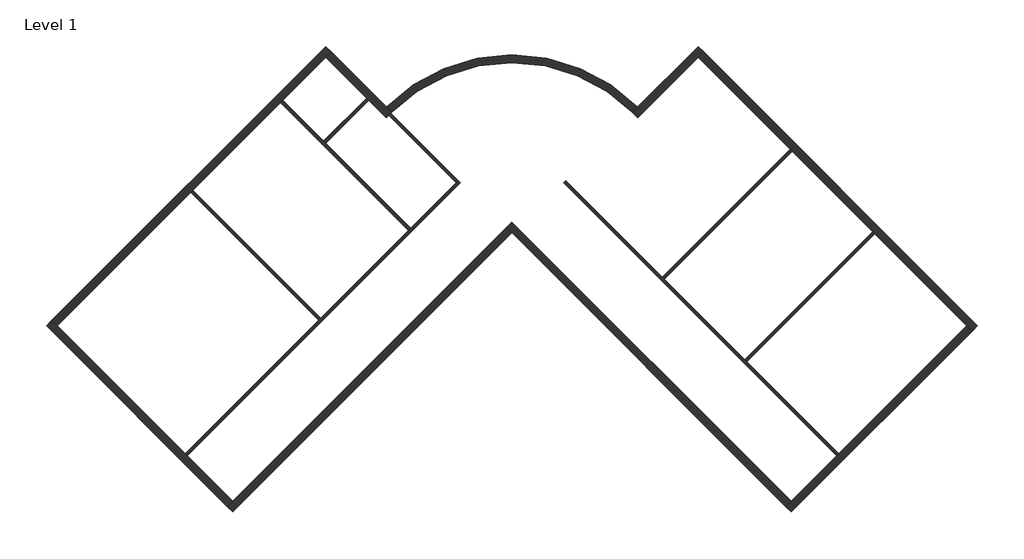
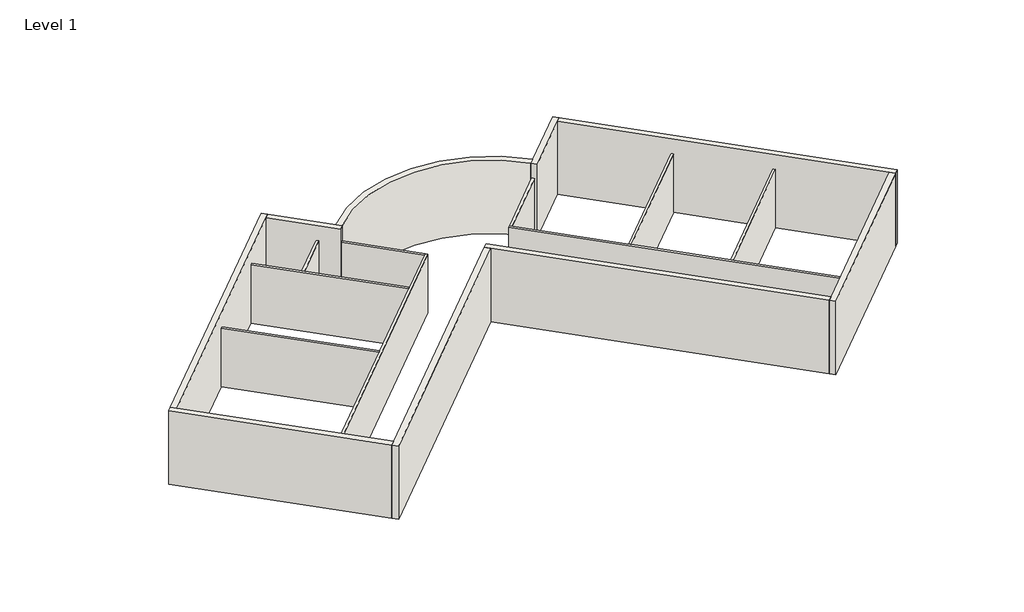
# One storey: 18 walls.
"""IFC4 building model written with IfcOpenShell, lengths in millimetres."""

import ifcopenshell
import ifcopenshell.guid

model = None  # the IFC model being written
_history = None  # IfcOwnerHistory: only IFC2X3 demands one
_inside = {}  # id of a spatial element -> (the spatial element, [elements in it])
_under = {}  # id of a project, library or spatial element -> (it, [spatial elements below it])
_declared = {}  # id of a project -> (the project, [libraries it declares])
_typed = {}  # id of a type object -> (the type object, [elements of that type])
_made_of = {}  # id of a material, layer set ... -> (it, [elements and type objects made of it])


def new_model(schema):
    """Start an empty IFC model of exactly this schema.

    Asked for "IFC4X3", IfcOpenShell would pick the latest addendum, in which some entities
    have other attributes; the version numbers below select the first issue.
    IFC2X3 requires an IfcOwnerHistory on every rooted entity: one is made here for all.
    """
    global model, _history
    if schema == "IFC4X3":
        model = ifcopenshell.file(schema_version=(4, 3, 0, 0))
    else:
        model = ifcopenshell.file(schema=schema)
    _inside.clear()
    _under.clear()
    _declared.clear()
    _typed.clear()
    _made_of.clear()
    _history = None
    if model.schema == "IFC2X3":
        org = make("IfcOrganization", Name="unknown")
        user = make(
            "IfcPersonAndOrganization",
            ThePerson=make("IfcPerson", FamilyName="unknown"),
            TheOrganization=org,
        )
        app = make(
            "IfcApplication",
            ApplicationDeveloper=org,
            Version="unknown",
            ApplicationFullName="unknown",
            ApplicationIdentifier="unknown",
        )
        _history = make(
            "IfcOwnerHistory",
            OwningUser=user,
            OwningApplication=app,
            ChangeAction="ADDED",
            CreationDate=0,
        )
    return model


def make(cls, **values):
    """One entity of the class cls with the attributes given. An attribute that is None is left unset."""
    return model.create_entity(
        cls, **{name: value for name, value in values.items() if value is not None}
    )


def rooted(cls, **values):
    """An entity with a GlobalId (a new one), such as an element, a storey or a relation."""
    return make(cls, GlobalId=ifcopenshell.guid.new(), OwnerHistory=_history, **values)


def si_unit(unit_type, name, prefix=None):
    """IfcSIUnit, for example si_unit("LENGTHUNIT", "METRE", prefix="MILLI")."""
    return make("IfcSIUnit", UnitType=unit_type, Prefix=prefix, Name=name)


def assignment(units):
    """IfcUnitAssignment: the units of a project."""
    return None if units is None else make("IfcUnitAssignment", Units=units)


def point(xyz):
    """IfcCartesianPoint."""
    return None if xyz is None else make("IfcCartesianPoint", Coordinates=xyz)


def direction(xyz):
    """IfcDirection."""
    return None if xyz is None else make("IfcDirection", DirectionRatios=xyz)


def frame(location, z_axis=None, x_axis=None):
    """IfcAxis2Placement3D, a coordinate frame: its origin and axes. An axis left out is left unset."""
    return make(
        "IfcAxis2Placement3D",
        Location=point(location),
        Axis=direction(z_axis),
        RefDirection=direction(x_axis),
    )


def frame_2d(location, x_axis=None):
    """IfcAxis2Placement2D, a coordinate frame in the plane: its origin and x axis."""
    return make(
        "IfcAxis2Placement2D", Location=point(location), RefDirection=direction(x_axis)
    )


def origin():
    """The frame at (0, 0, 0) with its axes left unset."""
    return frame((0.0, 0.0, 0.0))


def origin_with_axes():
    """The frame at (0, 0, 0) with the z axis (0, 0, 1) and the x axis (1, 0, 0) written out."""
    return frame((0.0, 0.0, 0.0), z_axis=(0.0, 0.0, 1.0), x_axis=(1.0, 0.0, 0.0))


def place(relative_to, where):
    """IfcLocalPlacement: puts the frame where relative to a parent placement (None: the world)."""
    return make(
        "IfcLocalPlacement", PlacementRelTo=relative_to, RelativePlacement=where
    )


def context(
    kind, dimensions, precision=None, world=None, true_north=None, identifier=None
):
    """IfcGeometricRepresentationContext, for example the 3D "Model" context."""
    return make(
        "IfcGeometricRepresentationContext",
        ContextIdentifier=identifier,
        ContextType=kind,
        CoordinateSpaceDimension=dimensions,
        Precision=precision,
        WorldCoordinateSystem=world,
        TrueNorth=true_north,
    )


def project(units=None, contexts=None):
    """IfcProject with its units and contexts."""
    return rooted(
        "IfcProject",
        Name="project",
        RepresentationContexts=contexts,
        UnitsInContext=assignment(units),
    )


def spatial(cls, under=None, at=None, **own):
    """A site, building, storey or space (cls), placed at a placement, below another one or the project."""
    s = rooted(cls, ObjectPlacement=at, **own)
    if under is not None:
        _under.setdefault(under.id(), (under, []))[1].append(s)
    return s


def polyline(points):
    """IfcPolyline through the points."""
    return make("IfcPolyline", Points=[point(p) for p in points])


def circle_curve(where, radius):
    """IfcCircle in the frame where."""
    return make("IfcCircle", Position=where, Radius=radius)


def trimmed(basis, trim1, trim2, sense, master):
    """IfcTrimmedCurve: the piece of a basis curve between two trims."""
    return make(
        "IfcTrimmedCurve",
        BasisCurve=basis,
        Trim1=trim1,
        Trim2=trim2,
        SenseAgreement=sense,
        MasterRepresentation=master,
    )


def segment(curve, same_sense, transition):
    """IfcCompositeCurveSegment."""
    return make(
        "IfcCompositeCurveSegment",
        Transition=transition,
        SameSense=same_sense,
        ParentCurve=curve,
    )


def composite_curve(segments, self_intersect=None):
    """IfcCompositeCurve: segments joined end to end."""
    return make("IfcCompositeCurve", Segments=segments, SelfIntersect=self_intersect)


def outline(outer, holes=None, kind="AREA"):
    """IfcArbitraryClosedProfileDef: a profile drawn as a closed curve; with holes, ...WithVoids."""
    if holes is None:
        return make("IfcArbitraryClosedProfileDef", ProfileType=kind, OuterCurve=outer)
    return make(
        "IfcArbitraryProfileDefWithVoids",
        ProfileType=kind,
        OuterCurve=outer,
        InnerCurves=holes,
    )


def extrude(swept, where, along, depth):
    """IfcExtrudedAreaSolid: the profile swept, set in the frame where, extruded along a direction by depth."""
    return make(
        "IfcExtrudedAreaSolid",
        SweptArea=swept,
        Position=where,
        ExtrudedDirection=direction(along),
        Depth=depth,
    )


def faces_of(points, faces, orient=None, outer=None):
    """IfcFace entities. A face is a list of loops; a loop is a list of indices into points, from 0.

    orient and outer hold one flag for each loop. By default every Orientation is true, the
    first loop of a face is its IfcFaceOuterBound and the others are IfcFaceBound.
    """
    made = []
    for i, loops in enumerate(faces):
        bounds = []
        for j, loop in enumerate(loops):
            is_outer = j == 0 if outer is None else outer[i][j]
            bounds.append(
                make(
                    "IfcFaceOuterBound" if is_outer else "IfcFaceBound",
                    Bound=make("IfcPolyLoop", Polygon=[points[k] for k in loop]),
                    Orientation=True if orient is None else orient[i][j],
                )
            )
        made.append(make("IfcFace", Bounds=bounds))
    return made


def faceted_brep(points, faces, orient=None, outer=None, voids=None):
    """IfcFacetedBrep: a solid bounded by flat faces; with voids (closed shells), ...WithVoids."""
    shared = [point(p) for p in points]
    hull = make("IfcClosedShell", CfsFaces=faces_of(shared, faces, orient, outer))
    if voids is None:
        return make("IfcFacetedBrep", Outer=hull)
    return make(
        "IfcFacetedBrepWithVoids",
        Outer=hull,
        Voids=[
            make(cls, CfsFaces=faces_of(shared, fs, o, b)) for cls, fs, o, b in voids
        ],
    )


def shape(context_of_items, identifier, shape_type, items):
    """IfcShapeRepresentation: the items that make up one representation, for example the "Body"."""
    return make(
        "IfcShapeRepresentation",
        ContextOfItems=context_of_items,
        RepresentationIdentifier=identifier,
        RepresentationType=shape_type,
        Items=items,
    )


def made_of(thing, what):
    """Note that an element or type object is made of a material, layer set ...; save() writes the relation."""
    if what is not None:
        _made_of.setdefault(what.id(), (what, []))[1].append(thing)
    return thing


def element(
    cls,
    number,
    at=None,
    inside=None,
    cuts=None,
    type_object=None,
    material=None,
    context=None,
    identifier="Body",
    shape_type=None,
    held_by="IfcProductDefinitionShape",
    body=None,
    shapes=None,
    **own,
):
    """One element of the class cls, such as IfcWall. Its Tag is "e" and its number.

    at: its placement. inside: the storey or other place that contains it. cuts: it is an
    opening in that element (IfcRelVoidsElement). A single representation is given by context,
    identifier, shape_type and body (its items); several are given by shapes. held_by: the class
    of the entity that holds the representations. save() writes the other relations.
    """
    e = rooted(cls, Tag="e%d" % number, ObjectPlacement=at, **own)
    if body is not None:
        shapes = [shape(context, identifier, shape_type, body)]
    if shapes is not None:
        e.Representation = make(held_by, Representations=shapes)
    if inside is not None:
        _inside.setdefault(inside.id(), (inside, []))[1].append(e)
    if cuts is not None:
        rooted(
            "IfcRelVoidsElement", RelatingBuildingElement=cuts, RelatedOpeningElement=e
        )
    if type_object is not None:
        _typed.setdefault(type_object.id(), (type_object, []))[1].append(e)
    return made_of(e, material)


def aggregate(whole, parts):
    """IfcRelAggregates: a whole, such as a stair, and the parts it consists of."""
    return rooted("IfcRelAggregates", RelatingObject=whole, RelatedObjects=parts)


def save(model, path):
    """Write the relations noted so far, then the file.

    IfcRelAggregates (storeys below a building ...), IfcRelContainedInSpatialStructure (elements
    in a storey), IfcRelDefinesByType, IfcRelAssociatesMaterial and IfcRelDeclares: one each for
    every whole, place, type object, material and project.
    """
    for whole, parts in _under.values():
        aggregate(whole, parts)
    for where, things in _inside.values():
        rooted(
            "IfcRelContainedInSpatialStructure",
            RelatedElements=things,
            RelatingStructure=where,
        )
    for kind, things in _typed.values():
        rooted("IfcRelDefinesByType", RelatedObjects=things, RelatingType=kind)
    for what, things in _made_of.values():
        rooted("IfcRelAssociatesMaterial", RelatedObjects=things, RelatingMaterial=what)
    for by, libraries in _declared.values():
        rooted("IfcRelDeclares", RelatingContext=by, RelatedDefinitions=libraries)
    model.write(path)


def plane_surface(at):
    """IfcPlane: the flat surface through the origin of the frame at, square to its z axis."""
    return make("IfcPlane", Position=at)


def revolved_surface(curve, axis_point, axis_direction):
    """IfcSurfaceOfRevolution: the curve turned about the line through axis_point along axis_direction."""
    return make(
        "IfcSurfaceOfRevolution",
        SweptCurve=make("IfcArbitraryOpenProfileDef", ProfileType="CURVE", Curve=curve),
        AxisPosition=make("IfcAxis1Placement", Location=point(axis_point), Axis=direction(axis_direction)),
    )


def advanced_brep(points, edges, surfaces, faces):
    """IfcAdvancedBrep: a solid bounded by faces that lie on surfaces and meet in shared edges.

    An edge is (start, end): straight between two places in points (the first is 0);
    or (start, end, curve); or (start, end, curve, False) where it runs against its curve.
    A face is (place in surfaces, loops), or (place, loops, False) where it looks against
    its surface's normal. A loop lists edges by number (the first is 1), with a minus sign
    where the edge is run from its end to its start. The first loop is the outer one.
    """
    corners = [point(p) for p in points]
    vertices = [make("IfcVertexPoint", VertexGeometry=c) for c in corners]
    made = []
    for start, end, *more in edges:
        made.append(
            make(
                "IfcEdgeCurve",
                EdgeStart=vertices[start],
                EdgeEnd=vertices[end],
                EdgeGeometry=more[0] if more else make("IfcPolyline", Points=[corners[start], corners[end]]),
                SameSense=more[1] if len(more) > 1 else True,
            )
        )
    hull = []
    for where, loops, *sense in faces:
        bounds = []
        for j, loop in enumerate(loops):
            ring = [make("IfcOrientedEdge", EdgeElement=made[abs(k) - 1], Orientation=k > 0) for k in loop]
            bounds.append(
                make(
                    "IfcFaceOuterBound" if j == 0 else "IfcFaceBound",
                    Bound=make("IfcEdgeLoop", EdgeList=ring),
                    Orientation=True,
                )
            )
        hull.append(make("IfcAdvancedFace", Bounds=bounds, FaceSurface=surfaces[where], SameSense=sense[0] if sense else True))
    return make("IfcAdvancedBrep", Outer=make("IfcClosedShell", CfsFaces=hull))


model = new_model("IFC4")

# Units and contexts
model_context = context("Model", 3, world=origin())
ifc_project = project(units=[si_unit("LENGTHUNIT", "METRE", prefix="MILLI")], contexts=[model_context])

# Site, building, storey
site = spatial("IfcSite", under=ifc_project)
building = spatial("IfcBuilding", under=site)
storey = spatial("IfcBuildingStorey", under=building, Name="Level 1", Elevation=0.0)

# Walls
placement = place(None, origin())
element("IfcWall", 1, ObjectType="Exterior - Brick on Mtl. Stud", at=placement, inside=storey, context=model_context, shape_type="AdvancedBrep", body=[
    advanced_brep(
    [(4212.7441701, 7313.6674352, 4572.0), (4212.7441701, 7313.6674352, 0.0), (7019.8001803, 10120.7234455, 0.0), (7267.2875537, 10368.2108189, 0.0), (7267.2875537, 10368.2108189, 4572.0), (7019.8001803, 10120.7234455, 4572.0), (3970.7557398, 7566.6537518, 0.0), (3970.7557398, 7566.6537518, 4572.0), (4218.2431133, 7814.1411252, 4572.0), (7019.8001803, 10615.6981923, 4572.0), (7019.8001803, 10615.6981923, 0.0), (4218.2431133, 7814.1411252, 0.0), (4109.8638796, 7423.9826013, 0.0), (4013.5506313, 7523.5275434, 0.0)],
    [
        (0, 1),
        (1, 2),
        (2, 3),
        (3, 4),
        (4, 5),
        (5, 0),
        (6, 7),
        (7, 8),
        (8, 9),
        (9, 10),
        (10, 11),
        (11, 6),
        (1, 12, circle_curve(frame((-1601.2456959, 1994.6523161, 0.0), z_axis=(0.0, 0.0, 1.0), x_axis=(1.0, 0.0, 0.0)), 7880.0)),
        (12, 13, circle_curve(frame((-1601.2456959, 1994.6523161, 0.0), z_axis=(0.0, 0.0, 1.0), x_axis=(1.0, 0.0, 0.0)), 7879.9999955)),
        (13, 6, circle_curve(frame((-1601.2456959, 1994.6523161, 0.0), z_axis=(0.0, 0.0, 1.0), x_axis=(1.0, 0.0, 0.0)), 7879.9999413)),
        (10, 3),
        (4, 9),
        (7, 0, circle_curve(frame((-1601.2456959, 1994.6523161, 4572.0), z_axis=(0.0, 0.0, -1.0), x_axis=(1.0, 0.0, 0.0)), 7880.0)),
    ],
    [
        plane_surface(frame((4250.0629184, 7350.9861836, 0.0), z_axis=(0.7071067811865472, -0.7071067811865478, 0.0), x_axis=(0.7071067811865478, 0.7071067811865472, 0.0))),
        plane_surface(frame((4002.575545, 7598.473557, 0.0), z_axis=(-0.7071067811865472, 0.7071067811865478, 0.0), x_axis=(-0.7071067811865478, -0.7071067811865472, 0.0))),
        plane_surface(frame((4340.6424361, 7441.5657013, 0.0), z_axis=(0.0, 0.0, -1.0), x_axis=(-0.7071067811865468, 0.7071067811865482, 0.0))),
        plane_surface(frame((7143.543867, 10244.4671322, 4572.0), z_axis=(0.0, 0.0, 1.0), x_axis=(-0.707106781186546, 0.7071067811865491, 0.0))),
        plane_surface(frame((7019.8001803, 10615.6981923, 0.0), z_axis=(0.7071067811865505, 0.7071067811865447, 0.0), x_axis=(-0.7071067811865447, 0.7071067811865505, 0.0))),
        revolved_surface(polyline([(6278.7543041, 1994.6523161, 0.0), (6278.7543041, 1994.6523161, 4572.0)]), (-1601.2456959, 1994.6523161, 0.0), (0.0, 0.0, -1.0)),
    ],
    [
        (0, [[1, 2, 3, 4, 5, 6]]),
        (1, [[7, 8, 9, 10, 11, 12]]),
        (2, [[-3, -2, 13, 14, 15, -12, -11, 16]]),
        (3, [[-6, -5, 17, -9, -8, 18]]),
        (4, [[-4, -16, -10, -17]]),
        (5, [[-18, -7, -15, -14, -13, -1]]),
    ],
),
])
element("IfcWall", 2, ObjectType="Exterior - Brick on Mtl. Stud", at=placement, inside=storey, context=model_context, shape_type="Brep", body=[
    faceted_brep([(7019.8001803, 10120.7234455, 0.0), (11281.3559738, 5859.167652, 0.0), (11379.290263, 5761.2333628, 0.0), (15096.9041651, 2043.6194607, 0.0), (15194.8384543, 1945.6851715, 0.0), (19456.3942478, -2315.870622, 0.0), (19703.8816212, -2563.3579955, 0.0), (19703.8816212, -2563.3579955, 4572.0), (19456.3942478, -2315.870622, 4572.0), (7019.8001803, 10120.7234455, 4572.0), (7267.2875537, 10368.2108189, 0.0), (7267.2875537, 10368.2108189, 4572.0), (19951.3689947, -2315.870622, 4572.0), (19951.3689947, -2315.870622, 0.0)], [[[0, 1, 2, 3, 4, 5, 6, 7, 8, 9]], [[10, 11, 12, 13]], [[6, 5, 4, 3, 2, 1, 0, 10, 13]], [[9, 8, 7, 12, 11]], [[0, 9, 11, 10]], [[7, 6, 13, 12]]]),
])
element("IfcWall", 3, ObjectType="Exterior - Brick on Mtl. Stud", at=placement, inside=storey, context=model_context, shape_type="Brep", body=[
    faceted_brep([(19456.3942478, -2315.870622, 0.0), (13534.5517321, -8237.7131378, 0.0), (13436.6174429, -8335.647427, 0.0), (11330.3231184, -10441.9417514, 0.0), (11082.835745, -10689.4291248, 0.0), (11082.835745, -10689.4291248, 4572.0), (11330.3231184, -10441.9417514, 4572.0), (19456.3942478, -2315.870622, 4572.0), (19703.8816212, -2563.3579955, 0.0), (19703.8816212, -2563.3579955, 4572.0), (11330.3231184, -10936.9164983, 4572.0), (11330.3231184, -10936.9164983, 0.0)], [[[0, 1, 2, 3, 4, 5, 6, 7]], [[8, 9, 10, 11]], [[4, 3, 2, 1, 0, 8, 11]], [[7, 6, 5, 10, 9]], [[0, 7, 9, 8]], [[5, 4, 11, 10]]]),
])
element("IfcWall", 4, ObjectType="Exterior - Brick on Mtl. Stud", at=placement, inside=storey, context=model_context, shape_type="Brep", body=[
    faceted_brep([(11330.3231184, -10441.9417514, 0.0), (-1601.2456959, 2489.6270629, 0.0), (-1601.2456959, 2489.6270629, 4572.0), (11330.3231184, -10441.9417514, 4572.0), (11082.835745, -10689.4291248, 0.0), (11082.835745, -10689.4291248, 4572.0), (-1601.2456959, 1994.6523161, 4572.0), (-1848.7330693, 2242.1396895, 4572.0), (-1848.7330693, 2242.1396895, 0.0), (-1601.2456959, 1994.6523161, 0.0)], [[[0, 1, 2, 3]], [[4, 5, 6, 7, 8, 9]], [[1, 0, 4, 9, 8]], [[3, 2, 7, 6, 5]], [[0, 3, 5, 4]], [[2, 1, 8, 7]]]),
])
element("IfcWall", 5, ObjectType="Exterior - Brick on Mtl. Stud", at=placement, inside=storey, context=model_context, shape_type="Brep", body=[
    faceted_brep([(-1848.7330693, 2242.1396895, 0.0), (-14532.8145102, -10441.9417514, 0.0), (-14780.3018837, -10689.4291248, 0.0), (-14780.3018837, -10689.4291248, 4572.0), (-14532.8145102, -10441.9417514, 4572.0), (-1848.7330693, 2242.1396895, 4572.0), (-1601.2456959, 1994.6523161, 0.0), (-1601.2456959, 1994.6523161, 4572.0), (-14532.8145102, -10936.9164983, 4572.0), (-14532.8145102, -10936.9164983, 0.0)], [[[0, 1, 2, 3, 4, 5]], [[6, 7, 8, 9]], [[2, 1, 0, 6, 9]], [[5, 4, 3, 8, 7]], [[0, 5, 7, 6]], [[3, 2, 9, 8]]]),
])
element("IfcWall", 6, ObjectType="Exterior - Brick on Mtl. Stud", at=placement, inside=storey, context=model_context, shape_type="Brep", body=[
    faceted_brep([(-14532.8145102, -10441.9417514, 0.0), (-16639.1088347, -8335.647427, 0.0), (-16737.0431239, -8237.7131378, 0.0), (-22658.8856396, -2315.870622, 0.0), (-22906.3730131, -2068.3832486, 0.0), (-22906.3730131, -2068.3832486, 4572.0), (-22658.8856396, -2315.870622, 4572.0), (-14532.8145102, -10441.9417514, 4572.0), (-14780.3018837, -10689.4291248, 0.0), (-14780.3018837, -10689.4291248, 4572.0), (-23153.8603865, -2315.870622, 4572.0), (-23153.8603865, -2315.870622, 0.0)], [[[0, 1, 2, 3, 4, 5, 6, 7]], [[8, 9, 10, 11]], [[4, 3, 2, 1, 0, 8, 11]], [[7, 6, 5, 10, 9]], [[0, 7, 9, 8]], [[5, 4, 11, 10]]]),
])
element("IfcWall", 7, ObjectType="Exterior - Brick on Mtl. Stud", at=placement, inside=storey, context=model_context, shape_type="Brep", body=[
    faceted_brep([(-22658.8856396, -2315.870622, 0.0), (-16473.6458479, 3869.3691697, 0.0), (-16375.7115587, 3967.3034589, 0.0), (-12319.9238385, 8023.0911791, 0.0), (-12221.9895493, 8121.0254683, 0.0), (-10222.2915721, 10120.7234455, 0.0), (-9974.8041987, 10368.2108189, 0.0), (-9974.8041987, 10368.2108189, 4572.0), (-10222.2915721, 10120.7234455, 4572.0), (-22658.8856396, -2315.870622, 4572.0), (-22906.3730131, -2068.3832486, 0.0), (-22906.3730131, -2068.3832486, 4572.0), (-10222.2915721, 10615.6981923, 4572.0), (-10222.2915721, 10615.6981923, 0.0)], [[[0, 1, 2, 3, 4, 5, 6, 7, 8, 9]], [[10, 11, 12, 13]], [[6, 5, 4, 3, 2, 1, 0, 10, 13]], [[9, 8, 7, 12, 11]], [[0, 9, 11, 10]], [[7, 6, 13, 12]]]),
])
element("IfcWall", 8, ObjectType="Exterior - Brick on Mtl. Stud", at=placement, inside=storey, context=model_context, shape_type="AdvancedBrep", body=[
    advanced_brep(
    [(-10222.2915721, 10120.7234455, 0.0), (-8331.6648159, 8230.0966893, 0.0), (-8233.7305267, 8132.1624001, 0.0), (-7415.2355619, 7313.6674352, 0.0), (-7415.2355619, 7313.6674352, 4572.0), (-10222.2915721, 10120.7234455, 4572.0), (-9974.8041987, 10368.2108189, 0.0), (-9974.8041987, 10368.2108189, 4572.0), (-7420.7345051, 7814.1411252, 4572.0), (-7173.2471317, 7566.6537518, 4572.0), (-7173.2471317, 7566.6537518, 0.0), (-7420.7345051, 7814.1411252, 0.0), (-7216.0420231, 7523.5275434, 0.0), (-7312.3552714, 7423.9826013, 0.0)],
    [
        (0, 1),
        (1, 2),
        (2, 3),
        (3, 4),
        (4, 5),
        (5, 0),
        (6, 7),
        (7, 8),
        (8, 9),
        (9, 10),
        (10, 11),
        (11, 6),
        (0, 6),
        (10, 12, circle_curve(frame((-1601.2456959, 1994.6523161, 0.0), z_axis=(0.0, 0.0, 1.0), x_axis=(1.0, 0.0, 0.0)), 7880.0)),
        (12, 13, circle_curve(frame((-1601.2456959, 1994.6523161, 0.0), z_axis=(0.0, 0.0, 1.0), x_axis=(1.0, 0.0, 0.0)), 7879.9999413)),
        (13, 3, circle_curve(frame((-1601.2456959, 1994.6523161, 0.0), z_axis=(0.0, 0.0, 1.0), x_axis=(1.0, 0.0, 0.0)), 7879.9999955)),
        (4, 9, circle_curve(frame((-1601.2456959, 1994.6523161, 4572.0), z_axis=(0.0, 0.0, -1.0), x_axis=(1.0, 0.0, 0.0)), 7880.0)),
        (7, 5),
    ],
    [
        plane_surface(frame((-10469.7789456, 10368.2108189, 0.0), z_axis=(-0.7071067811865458, -0.7071067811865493, 0.0), x_axis=(0.7071067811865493, -0.7071067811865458, 0.0))),
        plane_surface(frame((-10222.2915721, 10615.6981923, 0.0), z_axis=(0.7071067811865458, 0.7071067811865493, 0.0), x_axis=(-0.7071067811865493, 0.7071067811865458, 0.0))),
        plane_surface(frame((-10346.0352588, 10244.4671322, 0.0), z_axis=(0.0, 0.0, -1.0000000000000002), x_axis=(0.7071067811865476, 0.7071067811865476, 0.0))),
        plane_surface(frame((-7543.133828, 7441.5657013, 4572.0), z_axis=(0.0, 0.0, 1.0), x_axis=(0.707106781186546, 0.707106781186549, 0.0))),
        plane_surface(frame((-22906.3730131, -2563.3579955, 0.0), z_axis=(-0.7071067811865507, 0.7071067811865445, 0.0), x_axis=(0.7071067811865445, 0.7071067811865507, 0.0))),
        revolved_surface(polyline([(6278.7543041, 1994.6523161, 0.0), (6278.7543041, 1994.6523161, 4572.0)]), (-1601.2456959, 1994.6523161, 0.0), (0.0, 0.0, -1.0)),
    ],
    [
        (0, [[1, 2, 3, 4, 5, 6]]),
        (1, [[7, 8, 9, 10, 11, 12]]),
        (2, [[-3, -2, -1, 13, -12, -11, 14, 15, 16]]),
        (3, [[-5, 17, -9, -8, 18]]),
        (4, [[-6, -18, -7, -13]]),
        (5, [[-16, -15, -14, -10, -17, -4]]),
    ],
),
])
element("IfcWall", 9, ObjectType="Exterior - Brick on Mtl. Stud", at=placement, inside=storey, context=model_context, shape_type="SweptSolid", body=[
    extrude(outline(composite_curve([segment(polyline([(4218.2431133, 7814.1411252), (3970.7557398, 7566.6537518)]), True, "CONTINUOUS"), segment(trimmed(circle_curve(frame_2d((-1601.2456959, 1994.6523161)), 7880.0), [point((3970.7557398, 7566.6537518))], [point((-7173.2471317, 7566.6537518))], True, "CARTESIAN"), True, "CONTINUOUS"), segment(polyline([(-7173.2471317, 7566.6537518), (-7420.7345051, 7814.1411252)]), True, "CONTINUOUS"), segment(trimmed(circle_curve(frame_2d((-1601.2456959, 1994.6523161)), 8230.0), [point((-7420.7345051, 7814.1411252))], [point((4218.2431133, 7814.1411252))], False, "CARTESIAN"), True, "CONTINUOUS")], self_intersect=False)), origin_with_axes(), (0.0, 0.0, 1.0), 4572.0),
])
element("IfcWall", 10, ObjectType="Interior - 138mm Partition (1-hr)", at=placement, inside=storey, context=model_context, shape_type="Brep", body=[
    faceted_brep([(-16639.1088347, -8335.647427, 0.0), (-3997.9841307, 4305.477277, 0.0), (-3997.9841307, 4305.477277, 3658.0), (-16639.1088347, -8335.647427, 3658.0), (-16737.0431239, -8237.7131378, 0.0), (-16737.0431239, -8237.7131378, 3658.0), (-10551.8033322, -2052.473346, 3658.0), (-10453.869043, -1954.5390569, 3658.0), (-6398.0813228, 2101.2486633, 3658.0), (-6300.1470336, 2199.1829525, 3658.0), (-4193.8527091, 4305.477277, 3658.0), (-4095.9184199, 4403.4115662, 3658.0), (-4095.9184199, 4403.4115662, 0.0), (-4193.8527091, 4305.477277, 0.0), (-6300.1470336, 2199.1829525, 0.0), (-6398.0813228, 2101.2486633, 0.0), (-10453.869043, -1954.5390569, 0.0), (-10551.8033322, -2052.473346, 0.0)], [[[0, 1, 2, 3]], [[4, 5, 6, 7, 8, 9, 10, 11, 12, 13, 14, 15, 16, 17]], [[1, 0, 4, 17, 16, 15, 14, 13, 12]], [[3, 2, 11, 10, 9, 8, 7, 6, 5]], [[0, 3, 5, 4]], [[2, 1, 12, 11]]]),
])
element("IfcWall", 11, ObjectType="Interior - 138mm Partition (1-hr)", at=placement, inside=storey, context=model_context, shape_type="SweptSolid", body=[
    extrude(outline(composite_curve([segment(polyline([(-7216.038281, 7523.5314273), (-4095.9184199, 4403.4115662), (-4193.8527091, 4305.477277), (-7312.3566207, 7423.9811885)]), True, "CONTINUOUS"), segment(trimmed(circle_curve(frame_2d((-1601.2456959, 1994.6523161)), 7880.0), [point((-7312.3566207, 7423.9811885))], [point((-7216.038281, 7523.5314273))], False, "CARTESIAN"), True, "CONTINUOUS")], self_intersect=False)), origin_with_axes(), (0.0, 0.0, 1.0), 3658.0),
])
element("IfcWall", 12, ObjectType="Interior - 138mm Partition (1-hr)", at=placement, inside=storey, context=model_context, shape_type="Brep", body=[
    faceted_brep([(-6300.1470336, 2199.1829525, 0.0), (-10233.4285039, 6132.4644229, 0.0), (-10331.3627931, 6230.3987121, 0.0), (-12221.9895493, 8121.0254683, 0.0), (-12221.9895493, 8121.0254683, 3658.0), (-10331.3627931, 6230.3987121, 3658.0), (-10233.4285039, 6132.4644229, 3658.0), (-6300.1470336, 2199.1829525, 3658.0), (-6398.0813228, 2101.2486633, 0.0), (-6398.0813228, 2101.2486633, 3658.0), (-12319.9238385, 8023.0911791, 3658.0), (-12319.9238385, 8023.0911791, 0.0)], [[[0, 1, 2, 3, 4, 5, 6, 7]], [[8, 9, 10, 11]], [[3, 2, 1, 0, 8, 11]], [[7, 6, 5, 4, 10, 9]], [[4, 3, 11, 10]], [[0, 7, 9, 8]]]),
])
element("IfcWall", 13, ObjectType="Interior - 138mm Partition (1-hr)", at=placement, inside=storey, context=model_context, shape_type="SweptSolid", body=[
    extrude(outline(polyline([(-8233.7305267, 8132.1624001), (-10233.4285039, 6132.4644229), (-10331.3627931, 6230.3987121), (-8331.6648159, 8230.0966893), (-8233.7305267, 8132.1624001)])), origin_with_axes(), (0.0, 0.0, 1.0), 3658.0),
])
element("IfcWall", 14, ObjectType="Interior - 138mm Partition (1-hr)", at=placement, inside=storey, context=model_context, shape_type="SweptSolid", body=[
    extrude(outline(polyline([(-16375.7115587, 3967.3034589), (-10453.869043, -1954.5390569), (-10551.8033322, -2052.473346), (-16473.6458479, 3869.3691697), (-16375.7115587, 3967.3034589)])), origin_with_axes(), (0.0, 0.0, 1.0), 3658.0),
])
element("IfcWall", 15, ObjectType="Interior - 138mm Partition (1-hr)", at=placement, inside=storey, context=model_context, shape_type="Brep", body=[
    faceted_brep([(13534.5517321, -8237.7131378, 0.0), (9272.9959386, -3976.1573443, 0.0), (9175.0616494, -3878.2230551, 0.0), (5457.4477473, -160.609153, 0.0), (5359.5134581, -62.6748638, 0.0), (991.3613173, 4305.477277, 0.0), (893.4270281, 4403.4115662, 0.0), (893.4270281, 4403.4115662, 3658.0), (991.3613173, 4305.477277, 3658.0), (5359.5134581, -62.6748638, 3658.0), (5457.4477473, -160.609153, 3658.0), (9175.0616494, -3878.2230551, 3658.0), (9272.9959386, -3976.1573443, 3658.0), (13534.5517321, -8237.7131378, 3658.0), (13436.6174429, -8335.647427, 0.0), (13436.6174429, -8335.647427, 3658.0), (795.4927389, 4305.477277, 3658.0), (795.4927389, 4305.477277, 0.0)], [[[0, 1, 2, 3, 4, 5, 6, 7, 8, 9, 10, 11, 12, 13]], [[14, 15, 16, 17]], [[6, 5, 4, 3, 2, 1, 0, 14, 17]], [[13, 12, 11, 10, 9, 8, 7, 16, 15]], [[0, 13, 15, 14]], [[7, 6, 17, 16]]]),
])
element("IfcWall", 16, ObjectType="Interior - 138mm Partition (1-hr)", at=placement, inside=storey, context=model_context, shape_type="SweptSolid", body=[
    extrude(outline(composite_curve([segment(polyline([(4109.8652288, 7423.9811885), (991.3613173, 4305.477277), (893.4270281, 4403.4115662), (4013.5468892, 7523.5314273)]), True, "CONTINUOUS"), segment(trimmed(circle_curve(frame_2d((-1601.2456959, 1994.6523161)), 7880.0), [point((4013.5468892, 7523.5314273))], [point((4109.8652288, 7423.9811885))], False, "CARTESIAN"), True, "CONTINUOUS")], self_intersect=False)), origin_with_axes(), (0.0, 0.0, 1.0), 3658.0),
])
element("IfcWall", 17, ObjectType="Interior - 138mm Partition (1-hr)", at=placement, inside=storey, context=model_context, shape_type="SweptSolid", body=[
    extrude(outline(polyline([(11379.290263, 5761.2333628), (5457.4477473, -160.609153), (5359.5134581, -62.6748638), (11281.3559738, 5859.167652), (11379.290263, 5761.2333628)])), origin_with_axes(), (0.0, 0.0, 1.0), 3658.0),
])
element("IfcWall", 18, ObjectType="Interior - 138mm Partition (1-hr)", at=placement, inside=storey, context=model_context, shape_type="SweptSolid", body=[
    extrude(outline(polyline([(15194.8384543, 1945.6851715), (9272.9959386, -3976.1573443), (9175.0616494, -3878.2230551), (15096.9041651, 2043.6194607), (15194.8384543, 1945.6851715)])), origin_with_axes(), (0.0, 0.0, 1.0), 3658.0),
])

save(model, "model.ifc")
